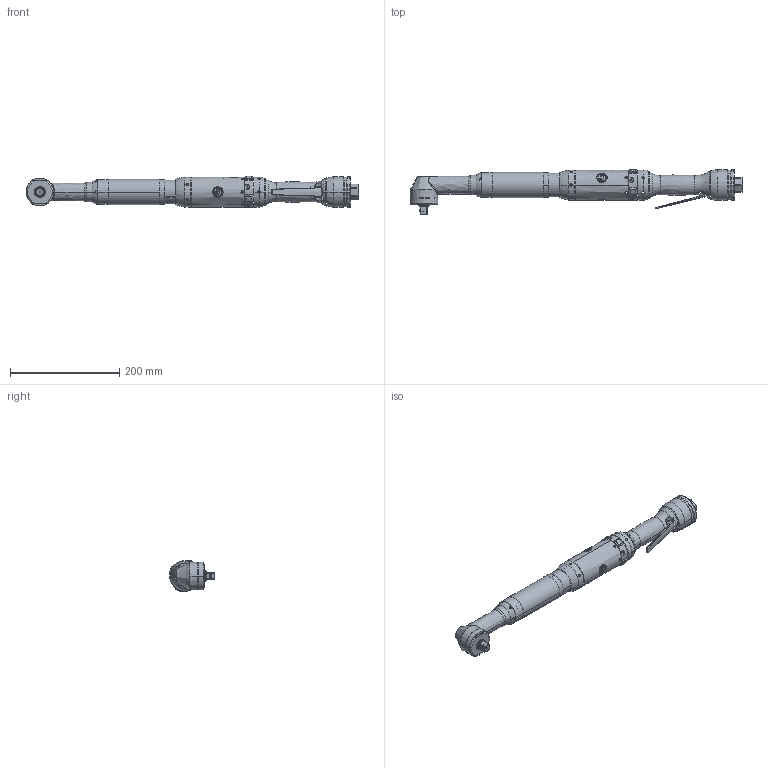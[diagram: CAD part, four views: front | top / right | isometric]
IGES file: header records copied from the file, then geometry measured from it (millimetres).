
Start section:  PTC IGES file: 2051474764_skiss_sw.igs
Global section: file name: 2051474764_skiss_sw.igs; native system: Pro/ENGINEER by Parametric Technology Corporation; preprocessor: 2006080; author: bguerin; organization: Unknown; date: 070205.143146; units: millimetre
Bounding box: 608.65 x 82.61 x 57.24 mm (x, y, z)
Surface area: 130629.3 mm2 (no closed solid volume)
Topology: 0 solids, 0 shells, 227 faces, 1420 edges, 1420 vertices
Faces by surface type: revolution 170, bspline 57
